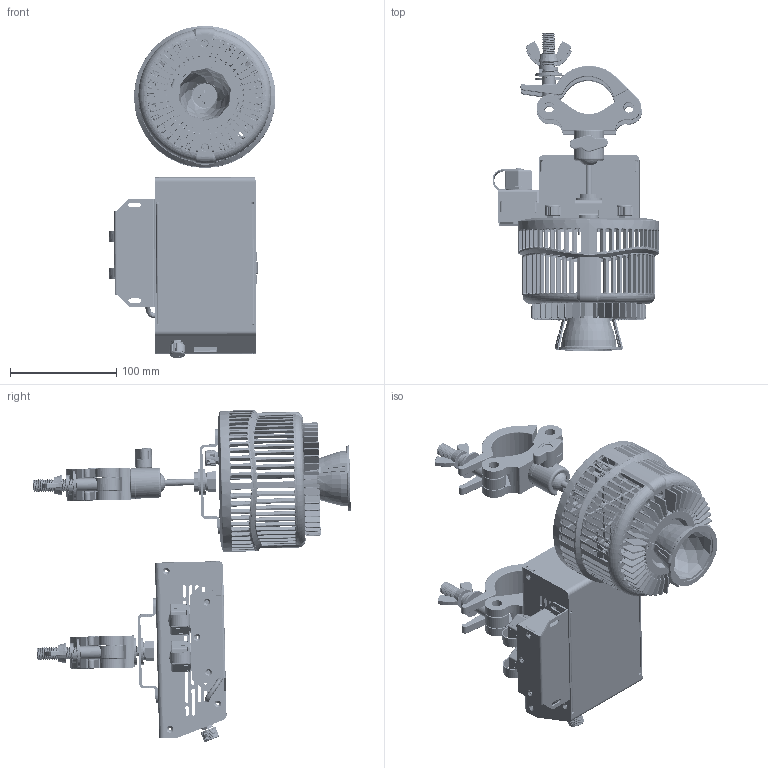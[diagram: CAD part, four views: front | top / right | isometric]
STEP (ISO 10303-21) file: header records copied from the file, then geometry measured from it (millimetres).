
FILE_DESCRIPTION (( 'STEP AP214' ), '1' );
FILE_NAME ('W500N-CLP-PSX.STEP', '2024-02-01T22:44:22', ( '' ), ( '' ), 'SwSTEP 2.0', 'SolidWorks 2022', '' );
FILE_SCHEMA (( 'AUTOMOTIVE_DESIGN' ));
Length unit declared in the file: millimetre
Products named in the file (35): 5021926-XXX_A2_KNOB, 18T, OD=14.9, ID=6, L=10MM_C1; 5120529-XXX_A1_Assembly BOM, W500 Light Engine_Finish; 5020757-002_A2_VR Washer, Kessil A360 Aquarium Light___; 5022708-XXX_A2_Ball Joint Axis, L=65.8mm___; 5022589-XXX_A1_Signal Cable Bottom Cover, 102x38x32mm___; 5022189_A1_Plate, OD=48, ID=23, T=2.0mm___; 62280-231A030_ _SCREW, M10xP1.5 L30mm_Original; 62280-1343006_ _SCREW, PAN HEAD TROX W-THD LOCK, SUS-410, BLACK, M3xL6mm___; 5021416_A1_Hex Nut, M10xP1.5, T8 SUS___; 5022427-XXX_A4_250W Power Box FRAME (TG&TEX&CLP TYPE), 165x95x64mm___; 5120539-XXX_A1_Housing, OD=133, ID=121, T=78.1mm, For Reflector, Without Logo___; 5022431-XXX_A1_Ball Joint Part A, L=23.7mm___; 5021508_A1_Waterproof Cap for RJ45 Jack_Orignal; 5020897-2010216520_ _Helical Spring Washer Customized___; 5120519-XXX_A3_Assembly BOM, Kessil W500 Power Box_TON(US)-PS; 5022693-XXX_A1_Bracket, 98.85x25x17.5, T=2.5mm___; 5022588-XXX_A1_Signal Cable Top Cover, 78x35x30.5mm___; 5021736-006_A2_Aluminum Hook, M10, Black_For W500-CLP-PS; 5020893-2010525020_ _Flat Washer, M10, ID10.5 OD25.0, T2 SUS 304___; 5120530-XXX_A1_Assembly BOM, W500 Reflector Type_Reflector - 55D-BD; 5022398-XXX_A1_Plug for W Series, 19x10x9.4mm_-002(Black); 5120522-XXX_A4_Assembly BOM, W360&W500 Light Mounting Type_TG; 5010177-XXX_A2_Assembly BOM, Kessil W500_55D-BD-[TEX]; 5022405-XXX_A1_Wing Knob Screws, M6xL8.0mm_-001; 5060069-XXX_A2_W series Reflector-35, OD=62, H=45mm___; 62282-5014005_ _Standard Types of Metric Set Screws, M4xL5, Black___; 5022453-XXX_A1_35D Sink Holder B, 71.2x62.2x31.1(H)mm___; W500N-CLP-PSX; 5022445-XXX_A1_DC Plug for W Series, D=12mm_-002(Black); 5022449-XXX_A1_Ball Joint Part C (For CLP), L=18.9mm___; 5020757-001_A1_VR Nut, Kessil A360 Aquarium Light___; 5022432-XXX_A2_250W Power Box Cover (TEX-PSX TYPE), 165x92x62.5(H)mm___; 5120596-XYYYY_A1_Cable 2xRJ45 CONN UL2646 24AWG 3C RoHS___; 5022452-003_A3_Reflector Sink Holder, D108x14.35(H)mm (-004 is White)_-003(Black); 5120540-XXX_A1_Rear Panel, OD=133, T=13.65mm, W-Series_5120531-001 W500
Assembly tree (48 placements, depth 4):
  W500N-CLP-PSX
    5120519-XXX_A3_Assembly BOM, Kessil W500 Power Box_TON(US)-PS
      5022427-XXX_A4_250W Power Box FRAME (TG&TEX&CLP TYPE), 165x95x64mm___
      5021736-006_A2_Aluminum Hook, M10, Black_For W500-CLP-PS
      62280-231A030_ _SCREW, M10xP1.5 L30mm_Original
      5022693-XXX_A1_Bracket, 98.85x25x17.5, T=2.5mm___
      5020893-2010525020_ _Flat Washer, M10, ID10.5 OD25.0, T2 SUS 304___
      5020897-2010216520_ _Helical Spring Washer Customized___
      5021416_A1_Hex Nut, M10xP1.5, T8 SUS___
      5022432-XXX_A2_250W Power Box Cover (TEX-PSX TYPE), 165x92x62.5(H)mm___
      5020757-002_A2_VR Washer, Kessil A360 Aquarium Light___
      5020757-001_A1_VR Nut, Kessil A360 Aquarium Light___
      5021926-XXX_A2_KNOB, 18T, OD=14.9, ID=6, L=10MM_C1
      5022589-XXX_A1_Signal Cable Bottom Cover, 102x38x32mm___
      5022588-XXX_A1_Signal Cable Top Cover, 78x35x30.5mm___
      5120596-XYYYY_A1_Cable 2xRJ45 CONN UL2646 24AWG 3C RoHS___
      5021508_A1_Waterproof Cap for RJ45 Jack_Orignal  x2
    5010177-XXX_A2_Assembly BOM, Kessil W500_55D-BD-[TEX]
      5120529-XXX_A1_Assembly BOM, W500 Light Engine_Finish
        5120540-XXX_A1_Rear Panel, OD=133, T=13.65mm, W-Series_5120531-001 W500
        5022398-XXX_A1_Plug for W Series, 19x10x9.4mm_-002(Black)
        5022445-XXX_A1_DC Plug for W Series, D=12mm_-002(Black)
        5020757-002_A2_VR Washer, Kessil A360 Aquarium Light___  x2
        5020757-001_A1_VR Nut, Kessil A360 Aquarium Light___  x2
        5021926-XXX_A2_KNOB, 18T, OD=14.9, ID=6, L=10MM_C1  x2
      5120530-XXX_A1_Assembly BOM, W500 Reflector Type_Reflector - 55D-BD
        5120539-XXX_A1_Housing, OD=133, ID=121, T=78.1mm, For Reflector, Without Logo___
        5022189_A1_Plate, OD=48, ID=23, T=2.0mm___
        62280-1343006_ _SCREW, PAN HEAD TROX W-THD LOCK, SUS-410, BLACK, M3xL6mm___  x2
        5022452-003_A3_Reflector Sink Holder, D108x14.35(H)mm (-004 is White)_-003(Black)
        5022453-XXX_A1_35D Sink Holder B, 71.2x62.2x31.1(H)mm___
        5060069-XXX_A2_W series Reflector-35, OD=62, H=45mm___
      5120522-XXX_A4_Assembly BOM, W360&W500 Light Mounting Type_TG
        5022431-XXX_A1_Ball Joint Part A, L=23.7mm___
        5022708-XXX_A2_Ball Joint Axis, L=65.8mm___
        62282-5014005_ _Standard Types of Metric Set Screws, M4xL5, Black___
        5022405-XXX_A1_Wing Knob Screws, M6xL8.0mm_-001
        5022693-XXX_A1_Bracket, 98.85x25x17.5, T=2.5mm___
        5021736-006_A2_Aluminum Hook, M10, Black_For W500-CLP-PS
        5022449-XXX_A1_Ball Joint Part C (For CLP), L=18.9mm___
        5020893-2010525020_ _Flat Washer, M10, ID10.5 OD25.0, T2 SUS 304___  x2
        5020897-2010216520_ _Helical Spring Washer Customized___
        5021416_A1_Hex Nut, M10xP1.5, T8 SUS___
Bounding box: 157.14 x 298.88 x 312.58 mm (x, y, z)
Volume: 537311.8 mm3; surface area: 469749.1 mm2
Topology: 68 solids, 68 shells, 8190 faces, 22284 edges, 14162 vertices
Faces by surface type: plane 3212, cylinder 3014, bspline 860, cone 535, torus 511, sphere 58
Entity records: 307908 total; most frequent: CARTESIAN_POINT 134005, ORIENTED_EDGE 36412, DIRECTION 30921, EDGE_CURVE 18206, VERTEX_POINT 11523, AXIS2_PLACEMENT_3D 11271, LINE 8379, VECTOR 8379
